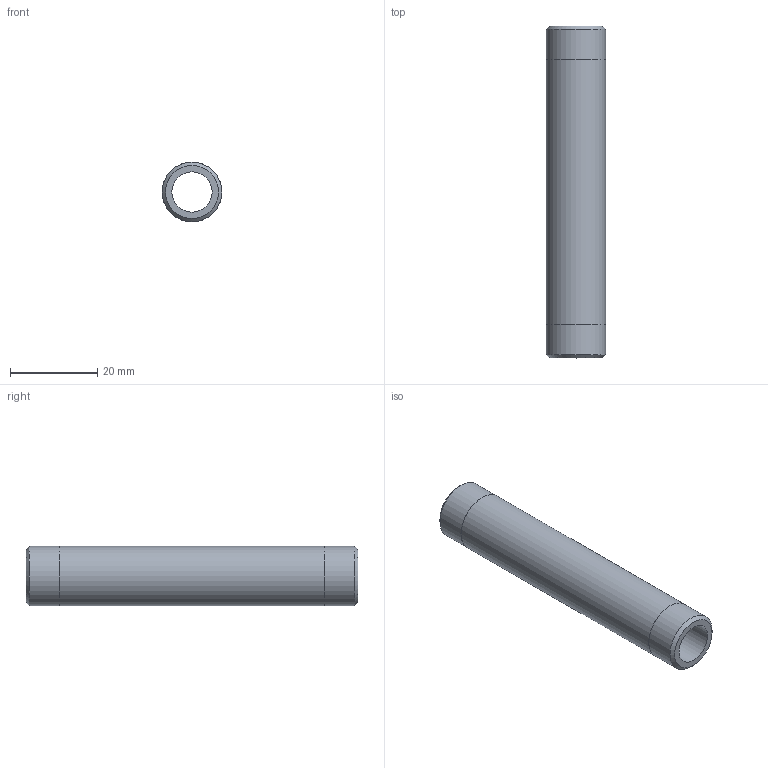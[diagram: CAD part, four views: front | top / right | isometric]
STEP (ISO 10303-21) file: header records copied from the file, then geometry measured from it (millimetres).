
FILE_DESCRIPTION(/* description */ (''),/* implementation_level */ '2;1');
FILE_NAME(/* name */ 'C:/Users/drich/Desktop/BPN14-3 v1.step',/* time_stamp */ '2020-01-03T14:36:55-06:00',/* author */ (''),/* organization */ (''),/* preprocessor_version */ 'ST-DEVELOPER v18',/* originating_system */ 'Autodesk Translation Framework v8.12.0.6',/* authorisation */ '');
FILE_SCHEMA (('AUTOMOTIVE_DESIGN { 1 0 10303 214 3 1 1 }'));
Length unit declared in the file: inch
Products named in the file (1): BPN14-3
Bounding box: 13.72 x 76.2 x 13.72 mm (x, y, z)
Volume: 6102.5 mm3; surface area: 5615.7 mm2
Topology: 1 solids, 1 shells, 10 faces, 24 edges, 18 vertices
Faces by surface type: cylinder 4, plane 4, cone 2
Full cylindrical faces by diameter (mm): 9.246 x1, 13.665 x2, 13.716 x1
Entity records: 360 total; most frequent: DIRECTION 64, CARTESIAN_POINT 53, ORIENTED_EDGE 48, AXIS2_PLACEMENT_3D 29, EDGE_CURVE 24, CIRCLE 18, VERTEX_POINT 18, EDGE_LOOP 14
